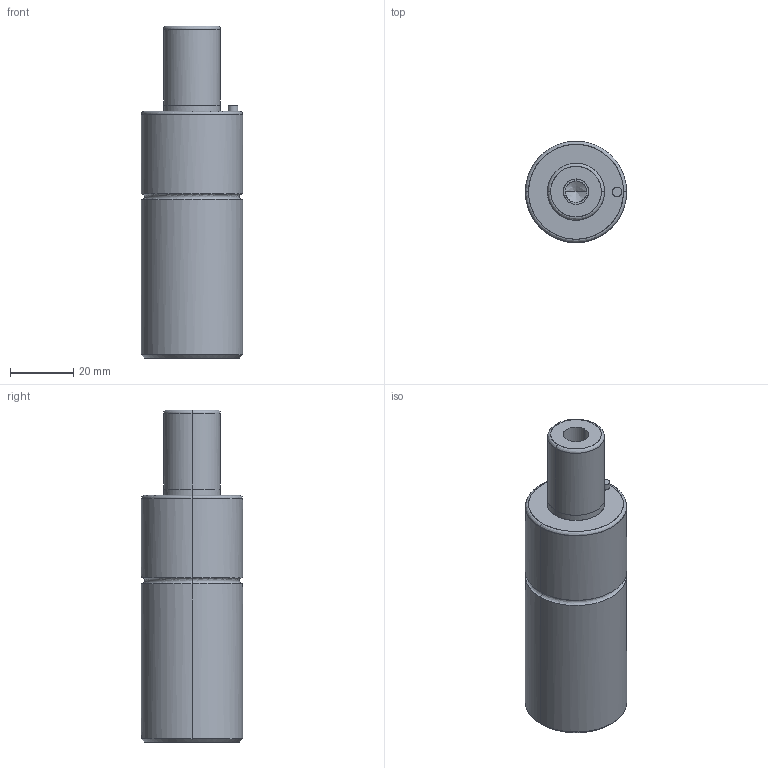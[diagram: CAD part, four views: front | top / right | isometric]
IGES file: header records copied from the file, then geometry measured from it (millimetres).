
Global section: file name: E:\UnigraphicsGraphicData\MISUMI_PRESS-PARTS\IGES\3d_gsm32-25_03926_r00.igs; native system: NX V5.0; preprocessor: UGS NX IGES V5.0; author: MISUMI; date: 20110105.160809; units: millimetre
Bounding box: 32 x 31.96 x 105 mm (x, y, z)
Surface area: 11834.3 mm2 (no closed solid volume)
Topology: 0 solids, 0 shells, 50 faces, 328 edges, 320 vertices
Faces by surface type: bspline 50
